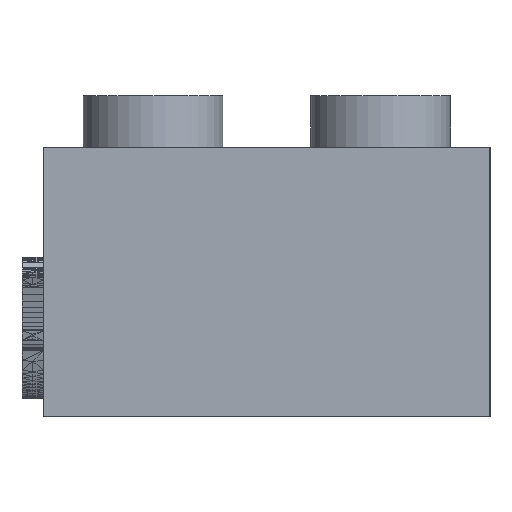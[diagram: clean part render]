
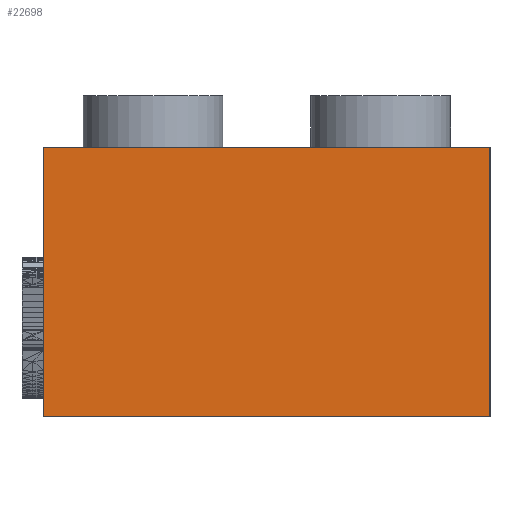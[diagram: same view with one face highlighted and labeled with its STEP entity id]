
A CAD part, left-side view. The second image highlights one B-rep face of the part: STEP entity #22698.
In plain terms, the highlighted planar face has unit normal (-1, 0, 0).
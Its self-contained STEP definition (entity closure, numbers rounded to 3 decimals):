
#44 = PLANE('',#45);
#45 = AXIS2_PLACEMENT_3D('',#46,#47,#48);
#46 = CARTESIAN_POINT('',(29.681,15.799,1.982)
  );
#47 = DIRECTION('',(0.,1.,0.));
#48 = DIRECTION('',(0.,-0.,1.));
#8209 = VERTEX_POINT('',#8210);
#8210 = CARTESIAN_POINT('',(0.,15.799,0.));
#8226 = PLANE('',#8227);
#8227 = AXIS2_PLACEMENT_3D('',#8228,#8229,#8230);
#8228 = CARTESIAN_POINT('',(1.321,1.321,0.));
#8229 = DIRECTION('',(-0.,0.,-1.));
#8230 = DIRECTION('',(-1.,0.,0.));
#8238 = EDGE_CURVE('',#8209,#8239,#8241,.T.);
#8239 = VERTEX_POINT('',#8240);
#8240 = CARTESIAN_POINT('',(0.,15.799,
    9.525));
#8241 = SURFACE_CURVE('',#8242,(#8246,#8253),.PCURVE_S1.);
#8242 = LINE('',#8243,#8244);
#8243 = CARTESIAN_POINT('',(0.,15.799,0.));
#8244 = VECTOR('',#8245,1.);
#8245 = DIRECTION('',(0.,0.,1.));
#8246 = PCURVE('',#44,#8247);
#8247 = DEFINITIONAL_REPRESENTATION('',(#8248),#8252);
#8248 = LINE('',#8249,#8250);
#8249 = CARTESIAN_POINT('',(-1.982,-29.681));
#8250 = VECTOR('',#8251,1.);
#8251 = DIRECTION('',(1.,0.));
#8252 = ( GEOMETRIC_REPRESENTATION_CONTEXT(2) 
PARAMETRIC_REPRESENTATION_CONTEXT() REPRESENTATION_CONTEXT('2D SPACE',''
  ) );
#8253 = PCURVE('',#8254,#8259);
#8254 = PLANE('',#8255);
#8255 = AXIS2_PLACEMENT_3D('',#8256,#8257,#8258);
#8256 = CARTESIAN_POINT('',(0.,15.799,0.));
#8257 = DIRECTION('',(-1.,0.,0.));
#8258 = DIRECTION('',(0.,-1.,0.));
#8259 = DEFINITIONAL_REPRESENTATION('',(#8260),#8264);
#8260 = LINE('',#8261,#8262);
#8261 = CARTESIAN_POINT('',(0.,0.));
#8262 = VECTOR('',#8263,1.);
#8263 = DIRECTION('',(0.,1.));
#8264 = ( GEOMETRIC_REPRESENTATION_CONTEXT(2) 
PARAMETRIC_REPRESENTATION_CONTEXT() REPRESENTATION_CONTEXT('2D SPACE',''
  ) );
#8282 = PLANE('',#8283);
#8283 = AXIS2_PLACEMENT_3D('',#8284,#8285,#8286);
#8284 = CARTESIAN_POINT('',(30.292,12.263,
    9.525));
#8285 = DIRECTION('',(-0.,0.,1.));
#8286 = DIRECTION('',(1.,0.,0.));
#22626 = EDGE_CURVE('',#8209,#22627,#22629,.T.);
#22627 = VERTEX_POINT('',#22628);
#22628 = CARTESIAN_POINT('',(0.,0.,0.));
#22629 = SURFACE_CURVE('',#22630,(#22634,#22641),.PCURVE_S1.);
#22630 = LINE('',#22631,#22632);
#22631 = CARTESIAN_POINT('',(0.,15.799,0.));
#22632 = VECTOR('',#22633,1.);
#22633 = DIRECTION('',(0.,-1.,0.));
#22634 = PCURVE('',#8226,#22635);
#22635 = DEFINITIONAL_REPRESENTATION('',(#22636),#22640);
#22636 = LINE('',#22637,#22638);
#22637 = CARTESIAN_POINT('',(1.321,14.478));
#22638 = VECTOR('',#22639,1.);
#22639 = DIRECTION('',(0.,-1.));
#22640 = ( GEOMETRIC_REPRESENTATION_CONTEXT(2) 
PARAMETRIC_REPRESENTATION_CONTEXT() REPRESENTATION_CONTEXT('2D SPACE',''
  ) );
#22641 = PCURVE('',#8254,#22642);
#22642 = DEFINITIONAL_REPRESENTATION('',(#22643),#22647);
#22643 = LINE('',#22644,#22645);
#22644 = CARTESIAN_POINT('',(0.,0.));
#22645 = VECTOR('',#22646,1.);
#22646 = DIRECTION('',(1.,0.));
#22647 = ( GEOMETRIC_REPRESENTATION_CONTEXT(2) 
PARAMETRIC_REPRESENTATION_CONTEXT() REPRESENTATION_CONTEXT('2D SPACE',''
  ) );
#22687 = PLANE('',#22688);
#22688 = AXIS2_PLACEMENT_3D('',#22689,#22690,#22691);
#22689 = CARTESIAN_POINT('',(0.,0.,0.));
#22690 = DIRECTION('',(0.,-1.,0.));
#22691 = DIRECTION('',(0.,-0.,-1.));
#22698 = ADVANCED_FACE('',(#22699),#8254,.T.);
#22699 = FACE_BOUND('',#22700,.T.);
#22700 = EDGE_LOOP('',(#22701,#22702,#22725,#22746));
#22701 = ORIENTED_EDGE('',*,*,#22626,.T.);
#22702 = ORIENTED_EDGE('',*,*,#22703,.T.);
#22703 = EDGE_CURVE('',#22627,#22704,#22706,.T.);
#22704 = VERTEX_POINT('',#22705);
#22705 = CARTESIAN_POINT('',(0.,0.,9.525));
#22706 = SURFACE_CURVE('',#22707,(#22711,#22718),.PCURVE_S1.);
#22707 = LINE('',#22708,#22709);
#22708 = CARTESIAN_POINT('',(0.,0.,0.));
#22709 = VECTOR('',#22710,1.);
#22710 = DIRECTION('',(0.,0.,1.));
#22711 = PCURVE('',#8254,#22712);
#22712 = DEFINITIONAL_REPRESENTATION('',(#22713),#22717);
#22713 = LINE('',#22714,#22715);
#22714 = CARTESIAN_POINT('',(15.799,0.));
#22715 = VECTOR('',#22716,1.);
#22716 = DIRECTION('',(0.,1.));
#22717 = ( GEOMETRIC_REPRESENTATION_CONTEXT(2) 
PARAMETRIC_REPRESENTATION_CONTEXT() REPRESENTATION_CONTEXT('2D SPACE',''
  ) );
#22718 = PCURVE('',#22687,#22719);
#22719 = DEFINITIONAL_REPRESENTATION('',(#22720),#22724);
#22720 = LINE('',#22721,#22722);
#22721 = CARTESIAN_POINT('',(0.,0.));
#22722 = VECTOR('',#22723,1.);
#22723 = DIRECTION('',(-1.,0.));
#22724 = ( GEOMETRIC_REPRESENTATION_CONTEXT(2) 
PARAMETRIC_REPRESENTATION_CONTEXT() REPRESENTATION_CONTEXT('2D SPACE',''
  ) );
#22725 = ORIENTED_EDGE('',*,*,#22726,.F.);
#22726 = EDGE_CURVE('',#8239,#22704,#22727,.T.);
#22727 = SURFACE_CURVE('',#22728,(#22732,#22739),.PCURVE_S1.);
#22728 = LINE('',#22729,#22730);
#22729 = CARTESIAN_POINT('',(0.,15.799,
    9.525));
#22730 = VECTOR('',#22731,1.);
#22731 = DIRECTION('',(0.,-1.,0.));
#22732 = PCURVE('',#8254,#22733);
#22733 = DEFINITIONAL_REPRESENTATION('',(#22734),#22738);
#22734 = LINE('',#22735,#22736);
#22735 = CARTESIAN_POINT('',(0.,9.525));
#22736 = VECTOR('',#22737,1.);
#22737 = DIRECTION('',(1.,0.));
#22738 = ( GEOMETRIC_REPRESENTATION_CONTEXT(2) 
PARAMETRIC_REPRESENTATION_CONTEXT() REPRESENTATION_CONTEXT('2D SPACE',''
  ) );
#22739 = PCURVE('',#8282,#22740);
#22740 = DEFINITIONAL_REPRESENTATION('',(#22741),#22745);
#22741 = LINE('',#22742,#22743);
#22742 = CARTESIAN_POINT('',(-30.292,3.536));
#22743 = VECTOR('',#22744,1.);
#22744 = DIRECTION('',(0.,-1.));
#22745 = ( GEOMETRIC_REPRESENTATION_CONTEXT(2) 
PARAMETRIC_REPRESENTATION_CONTEXT() REPRESENTATION_CONTEXT('2D SPACE',''
  ) );
#22746 = ORIENTED_EDGE('',*,*,#8238,.F.);
